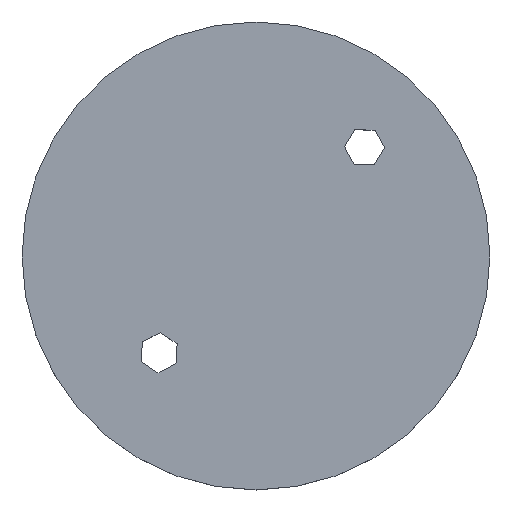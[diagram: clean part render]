
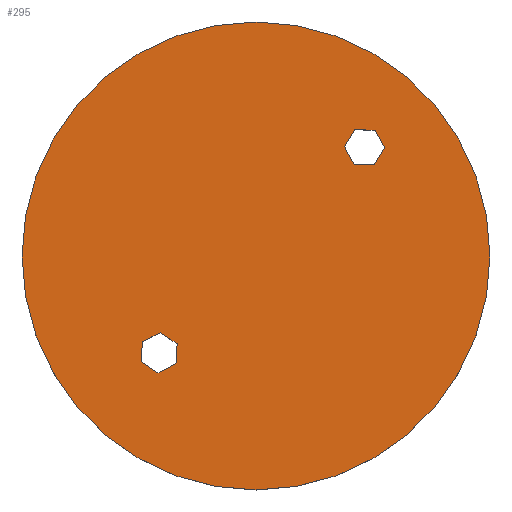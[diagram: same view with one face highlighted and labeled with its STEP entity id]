
A CAD part, top view. The second image highlights one B-rep face of the part: STEP entity #295.
In plain terms, the highlighted planar face has unit normal (0, 0, 1).
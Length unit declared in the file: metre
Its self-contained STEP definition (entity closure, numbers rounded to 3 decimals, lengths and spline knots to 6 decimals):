
#13=CIRCLE('',#322,0.038304);
#78=ORIENTED_EDGE('',*,*,#126,.F.);
#79=ORIENTED_EDGE('',*,*,#107,.T.);
#80=ORIENTED_EDGE('',*,*,#123,.T.);
#81=ORIENTED_EDGE('',*,*,#120,.T.);
#82=ORIENTED_EDGE('',*,*,#117,.T.);
#83=ORIENTED_EDGE('',*,*,#114,.T.);
#84=ORIENTED_EDGE('',*,*,#111,.T.);
#85=ORIENTED_EDGE('',*,*,#91,.T.);
#86=ORIENTED_EDGE('',*,*,#127,.T.);
#87=ORIENTED_EDGE('',*,*,#104,.T.);
#88=ORIENTED_EDGE('',*,*,#101,.T.);
#89=ORIENTED_EDGE('',*,*,#98,.T.);
#90=ORIENTED_EDGE('',*,*,#95,.T.);
#91=EDGE_CURVE('',#129,#130,#155,.T.);
#95=EDGE_CURVE('',#133,#129,#159,.T.);
#98=EDGE_CURVE('',#135,#133,#162,.T.);
#101=EDGE_CURVE('',#137,#135,#165,.T.);
#104=EDGE_CURVE('',#139,#137,#168,.T.);
#107=EDGE_CURVE('',#141,#142,#171,.T.);
#111=EDGE_CURVE('',#145,#141,#175,.T.);
#114=EDGE_CURVE('',#147,#145,#178,.T.);
#117=EDGE_CURVE('',#149,#147,#181,.T.);
#120=EDGE_CURVE('',#151,#149,#184,.T.);
#123=EDGE_CURVE('',#142,#151,#187,.T.);
#126=EDGE_CURVE('',#154,#154,#13,.T.);
#127=EDGE_CURVE('',#130,#139,#189,.T.);
#129=VERTEX_POINT('',#401);
#130=VERTEX_POINT('',#402);
#133=VERTEX_POINT('',#410);
#135=VERTEX_POINT('',#416);
#137=VERTEX_POINT('',#422);
#139=VERTEX_POINT('',#428);
#141=VERTEX_POINT('',#434);
#142=VERTEX_POINT('',#435);
#145=VERTEX_POINT('',#443);
#147=VERTEX_POINT('',#449);
#149=VERTEX_POINT('',#455);
#151=VERTEX_POINT('',#461);
#154=VERTEX_POINT('',#472);
#155=LINE('',#400,#191);
#159=LINE('',#409,#195);
#162=LINE('',#415,#198);
#165=LINE('',#421,#201);
#168=LINE('',#427,#204);
#171=LINE('',#433,#207);
#175=LINE('',#442,#211);
#178=LINE('',#448,#214);
#181=LINE('',#454,#217);
#184=LINE('',#460,#220);
#187=LINE('',#466,#223);
#189=LINE('',#474,#225);
#191=VECTOR('',#330,1.);
#195=VECTOR('',#336,1.);
#198=VECTOR('',#341,1.);
#201=VECTOR('',#346,1.);
#204=VECTOR('',#351,1.);
#207=VECTOR('',#356,1.);
#211=VECTOR('',#362,1.);
#214=VECTOR('',#367,1.);
#217=VECTOR('',#372,1.);
#220=VECTOR('',#377,1.);
#223=VECTOR('',#382,1.);
#225=VECTOR('',#392,1.);
#244=EDGE_LOOP('',(#78));
#245=EDGE_LOOP('',(#79,#80,#81,#82,#83,#84));
#246=EDGE_LOOP('',(#85,#86,#87,#88,#89,#90));
#264=FACE_BOUND('',#244,.T.);
#265=FACE_BOUND('',#245,.T.);
#266=FACE_BOUND('',#246,.T.);
#280=PLANE('',#325);
#295=ADVANCED_FACE('',(#264,#265,#266),#280,.F.);
#322=AXIS2_PLACEMENT_3D('',#471,#388,#389);
#325=AXIS2_PLACEMENT_3D('',#477,#396,#397);
#330=DIRECTION('',(0.518,0.855,0.));
#336=DIRECTION('',(-0.482,0.876,0.));
#341=DIRECTION('',(-1.,0.021,0.));
#346=DIRECTION('',(-0.518,-0.855,0.));
#351=DIRECTION('',(0.482,-0.876,0.));
#356=DIRECTION('',(0.835,-0.551,0.));
#362=DIRECTION('',(0.894,0.447,0.));
#367=DIRECTION('',(0.06,0.998,0.));
#372=DIRECTION('',(-0.835,0.551,0.));
#377=DIRECTION('',(-0.894,-0.447,0.));
#382=DIRECTION('',(-0.06,-0.998,0.));
#388=DIRECTION('',(0.,0.,-1.));
#389=DIRECTION('',(-1.,0.,0.));
#392=DIRECTION('',(1.,-0.021,0.));
#396=DIRECTION('',(0.,0.,-1.));
#397=DIRECTION('',(1.,0.,0.));
#400=CARTESIAN_POINT('',(0.041019,0.024907,-0.033256));
#401=CARTESIAN_POINT('',(0.040167,0.023499,-0.033256));
#402=CARTESIAN_POINT('',(0.041872,0.026314,-0.033256));
#409=CARTESIAN_POINT('',(0.040959,0.022057,-0.033256));
#410=CARTESIAN_POINT('',(0.041751,0.020615,-0.033256));
#415=CARTESIAN_POINT('',(0.043396,0.02058,-0.033256));
#416=CARTESIAN_POINT('',(0.045041,0.020545,-0.033256));
#421=CARTESIAN_POINT('',(0.045894,0.021953,-0.033256));
#422=CARTESIAN_POINT('',(0.046747,0.02336,-0.033256));
#427=CARTESIAN_POINT('',(0.045955,0.024802,-0.033256));
#428=CARTESIAN_POINT('',(0.045162,0.026244,-0.033256));
#433=CARTESIAN_POINT('',(0.011397,-0.007822,-0.033256));
#434=CARTESIAN_POINT('',(0.010024,-0.006915,-0.033256));
#435=CARTESIAN_POINT('',(0.01277,-0.008729,-0.033256));
#442=CARTESIAN_POINT('',(0.008552,-0.007651,-0.033256));
#443=CARTESIAN_POINT('',(0.00708,-0.008387,-0.033256));
#448=CARTESIAN_POINT('',(0.006982,-0.01003,-0.033256));
#449=CARTESIAN_POINT('',(0.006883,-0.011672,-0.033256));
#454=CARTESIAN_POINT('',(0.008256,-0.012579,-0.033256));
#455=CARTESIAN_POINT('',(0.00963,-0.013485,-0.033256));
#460=CARTESIAN_POINT('',(0.011101,-0.012749,-0.033256));
#461=CARTESIAN_POINT('',(0.012573,-0.012014,-0.033256));
#466=CARTESIAN_POINT('',(0.012671,-0.010371,-0.033256));
#471=CARTESIAN_POINT('',(0.025678,0.005651,-0.033256));
#472=CARTESIAN_POINT('',(-0.012626,0.005651,-0.033256));
#474=CARTESIAN_POINT('',(0.043517,0.026279,-0.033256));
#477=CARTESIAN_POINT('',(0.054376,0.005651,-0.033256));
